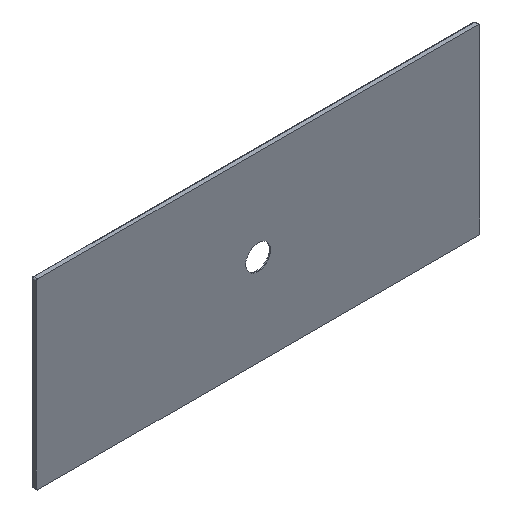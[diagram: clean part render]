
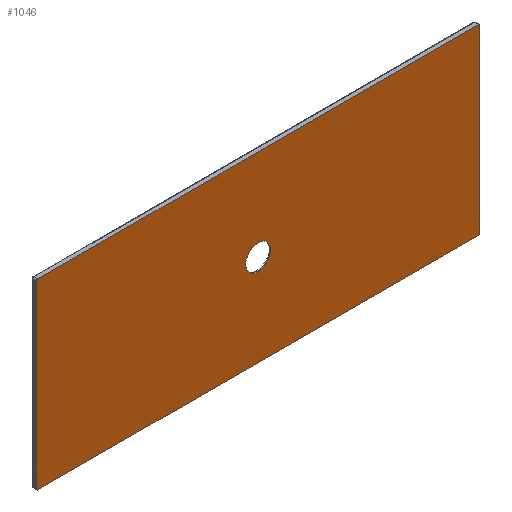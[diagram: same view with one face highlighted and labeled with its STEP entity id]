
A CAD part, isometric view. The second image highlights one B-rep face of the part: STEP entity #1046.
In plain terms, the highlighted planar face has unit normal (0, -1, 0).
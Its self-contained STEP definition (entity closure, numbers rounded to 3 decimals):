
#39 = CARTESIAN_POINT ( 'NONE',  ( -850., 0., 345.001 ) ) ;
#72 = DIRECTION ( 'NONE',  ( 0., 0., 1. ) ) ;
#129 = DIRECTION ( 'NONE',  ( 1., 0., 0. ) ) ;
#141 = VERTEX_POINT ( 'NONE', #185 ) ;
#145 = CARTESIAN_POINT ( 'NONE',  ( -850., 0., 350. ) ) ;
#160 = FACE_OUTER_BOUND ( 'NONE', #179, .T. ) ;
#179 = EDGE_LOOP ( 'NONE', ( #2344, #956, #1356, #539, #2357, #1342, #483, #2398 ) ) ;
#185 = CARTESIAN_POINT ( 'NONE',  ( 845.001, 0., 350. ) ) ;
#199 = CARTESIAN_POINT ( 'NONE',  ( 845.001, 0., -350. ) ) ;
#282 = CARTESIAN_POINT ( 'NONE',  ( -845.001, 0., 350. ) ) ;
#312 = AXIS2_PLACEMENT_3D ( 'NONE', #1407, #1226, #1812 ) ;
#313 = VERTEX_POINT ( 'NONE', #2612 ) ;
#318 = CARTESIAN_POINT ( 'NONE',  ( -850., 0., -350. ) ) ;
#347 = DIRECTION ( 'NONE',  ( 0., 1., 0. ) ) ;
#351 = CARTESIAN_POINT ( 'NONE',  ( 847.929, 0., 350. ) ) ;
#460 =( BOUNDED_CURVE ( )  B_SPLINE_CURVE ( 3, ( #282, #658, #1849, #39 ),
 .UNSPECIFIED., .F., .T. ) 
 B_SPLINE_CURVE_WITH_KNOTS ( ( 4, 4 ),
 ( 5.498, 7.068 ),
 .UNSPECIFIED. ) 
 CURVE ( )  GEOMETRIC_REPRESENTATION_ITEM ( )  RATIONAL_B_SPLINE_CURVE ( ( 1., 0.805, 0.805, 1. ) ) 
 REPRESENTATION_ITEM ( '' )  );
#483 = ORIENTED_EDGE ( 'NONE', *, *, #626, .F. ) ;
#539 = ORIENTED_EDGE ( 'NONE', *, *, #1209, .T. ) ;
#626 = EDGE_CURVE ( 'NONE', #1551, #1144, #730, .T. ) ;
#658 = CARTESIAN_POINT ( 'NONE',  ( -847.929, 0., 350. ) ) ;
#707 = EDGE_CURVE ( 'NONE', #1234, #1106, #2302, .T. ) ;
#730 = LINE ( 'NONE', #318, #1567 ) ;
#735 = CARTESIAN_POINT ( 'NONE',  ( -850., 0., -345.001 ) ) ;
#737 = VECTOR ( 'NONE', #1479, 1000. ) ;
#773 = CARTESIAN_POINT ( 'NONE',  ( 845.001, 0., 350. ) ) ;
#784 = LINE ( 'NONE', #145, #2586 ) ;
#820 = EDGE_CURVE ( 'NONE', #1100, #141, #784, .T. ) ;
#838 = CARTESIAN_POINT ( 'NONE',  ( 0., 0., -47.5 ) ) ;
#866 = CARTESIAN_POINT ( 'NONE',  ( 850., 0., -345.001 ) ) ;
#934 = CARTESIAN_POINT ( 'NONE',  ( -847.929, 0., -350. ) ) ;
#942 = PLANE ( 'NONE',  #2541 ) ;
#956 = ORIENTED_EDGE ( 'NONE', *, *, #1828, .T. ) ;
#992 = CARTESIAN_POINT ( 'NONE',  ( 850., 0., -345.001 ) ) ;
#1020 = DIRECTION ( 'NONE',  ( 0., 0., -1. ) ) ;
#1046 = ADVANCED_FACE ( 'NONE', ( #1345, #160 ), #942, .F. ) ;
#1100 = VERTEX_POINT ( 'NONE', #1627 ) ;
#1106 = VERTEX_POINT ( 'NONE', #1214 ) ;
#1123 = EDGE_CURVE ( 'NONE', #1598, #1598, #2454, .T. ) ;
#1144 = VERTEX_POINT ( 'NONE', #1953 ) ;
#1209 = EDGE_CURVE ( 'NONE', #313, #141, #1939, .T. ) ;
#1214 = CARTESIAN_POINT ( 'NONE',  ( -845.001, 0., -350. ) ) ;
#1226 = DIRECTION ( 'NONE',  ( 0., -1., 0. ) ) ;
#1234 = VERTEX_POINT ( 'NONE', #2387 ) ;
#1342 = ORIENTED_EDGE ( 'NONE', *, *, #2575, .T. ) ;
#1345 = FACE_BOUND ( 'NONE', #1571, .T. ) ;
#1356 = ORIENTED_EDGE ( 'NONE', *, *, #1960, .F. ) ;
#1394 = CARTESIAN_POINT ( 'NONE',  ( 850., 0., 350. ) ) ;
#1407 = CARTESIAN_POINT ( 'NONE',  ( 0., 0., 0. ) ) ;
#1479 = DIRECTION ( 'NONE',  ( -1., 0., 0. ) ) ;
#1519 = CARTESIAN_POINT ( 'NONE',  ( 850., 0., -350. ) ) ;
#1526 = VECTOR ( 'NONE', #1020, 1000. ) ;
#1548 =( BOUNDED_CURVE ( )  B_SPLINE_CURVE ( 3, ( #199, #2413, #1768, #992 ),
 .UNSPECIFIED., .F., .T. ) 
 B_SPLINE_CURVE_WITH_KNOTS ( ( 4, 4 ),
 ( 5.498, 7.068 ),
 .UNSPECIFIED. ) 
 CURVE ( )  GEOMETRIC_REPRESENTATION_ITEM ( )  RATIONAL_B_SPLINE_CURVE ( ( 1., 0.805, 0.805, 1. ) ) 
 REPRESENTATION_ITEM ( '' )  );
#1551 = VERTEX_POINT ( 'NONE', #735 ) ;
#1567 = VECTOR ( 'NONE', #72, 1000. ) ;
#1571 = EDGE_LOOP ( 'NONE', ( #2023 ) ) ;
#1592 = CARTESIAN_POINT ( 'NONE',  ( 850., 0., 347.929 ) ) ;
#1598 = VERTEX_POINT ( 'NONE', #838 ) ;
#1627 = CARTESIAN_POINT ( 'NONE',  ( -845.001, 0., 350. ) ) ;
#1672 = EDGE_CURVE ( 'NONE', #1551, #1106, #1713, .T. ) ;
#1713 =( BOUNDED_CURVE ( )  B_SPLINE_CURVE ( 3, ( #2308, #2321, #934, #1899 ),
 .UNSPECIFIED., .F., .T. ) 
 B_SPLINE_CURVE_WITH_KNOTS ( ( 4, 4 ),
 ( 5.498, 7.068 ),
 .UNSPECIFIED. ) 
 CURVE ( )  GEOMETRIC_REPRESENTATION_ITEM ( )  RATIONAL_B_SPLINE_CURVE ( ( 1., 0.805, 0.805, 1. ) ) 
 REPRESENTATION_ITEM ( '' )  );
#1768 = CARTESIAN_POINT ( 'NONE',  ( 850., 0., -347.929 ) ) ;
#1812 = DIRECTION ( 'NONE',  ( 0., 0., -1. ) ) ;
#1828 = EDGE_CURVE ( 'NONE', #1234, #2339, #1548, .T. ) ;
#1849 = CARTESIAN_POINT ( 'NONE',  ( -850., 0., 347.929 ) ) ;
#1899 = CARTESIAN_POINT ( 'NONE',  ( -845.001, 0., -350. ) ) ;
#1939 =( BOUNDED_CURVE ( )  B_SPLINE_CURVE ( 3, ( #2574, #1592, #351, #773 ),
 .UNSPECIFIED., .F., .T. ) 
 B_SPLINE_CURVE_WITH_KNOTS ( ( 4, 4 ),
 ( 5.498, 7.068 ),
 .UNSPECIFIED. ) 
 CURVE ( )  GEOMETRIC_REPRESENTATION_ITEM ( )  RATIONAL_B_SPLINE_CURVE ( ( 1., 0.805, 0.805, 1. ) ) 
 REPRESENTATION_ITEM ( '' )  );
#1953 = CARTESIAN_POINT ( 'NONE',  ( -850., 0., 345.001 ) ) ;
#1960 = EDGE_CURVE ( 'NONE', #313, #2339, #2187, .T. ) ;
#2023 = ORIENTED_EDGE ( 'NONE', *, *, #1123, .F. ) ;
#2147 = CARTESIAN_POINT ( 'NONE',  ( 0., 0., 0. ) ) ;
#2187 = LINE ( 'NONE', #1394, #1526 ) ;
#2302 = LINE ( 'NONE', #1519, #737 ) ;
#2308 = CARTESIAN_POINT ( 'NONE',  ( -850., 0., -345.001 ) ) ;
#2321 = CARTESIAN_POINT ( 'NONE',  ( -850., 0., -347.929 ) ) ;
#2339 = VERTEX_POINT ( 'NONE', #866 ) ;
#2344 = ORIENTED_EDGE ( 'NONE', *, *, #707, .F. ) ;
#2357 = ORIENTED_EDGE ( 'NONE', *, *, #820, .F. ) ;
#2387 = CARTESIAN_POINT ( 'NONE',  ( 845.001, 0., -350. ) ) ;
#2398 = ORIENTED_EDGE ( 'NONE', *, *, #1672, .T. ) ;
#2413 = CARTESIAN_POINT ( 'NONE',  ( 847.929, 0., -350. ) ) ;
#2454 = CIRCLE ( 'NONE', #312, 47.5 ) ;
#2541 = AXIS2_PLACEMENT_3D ( 'NONE', #2147, #347, #2557 ) ;
#2557 = DIRECTION ( 'NONE',  ( 0., 0., 1. ) ) ;
#2574 = CARTESIAN_POINT ( 'NONE',  ( 850., 0., 345.001 ) ) ;
#2575 = EDGE_CURVE ( 'NONE', #1100, #1144, #460, .T. ) ;
#2586 = VECTOR ( 'NONE', #129, 1000. ) ;
#2612 = CARTESIAN_POINT ( 'NONE',  ( 850., 0., 345.001 ) ) ;
